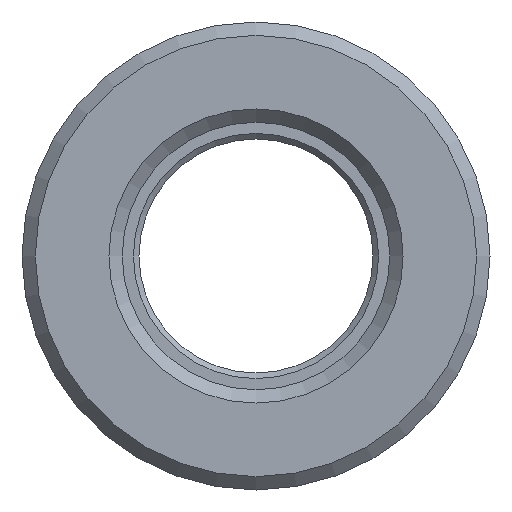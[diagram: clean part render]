
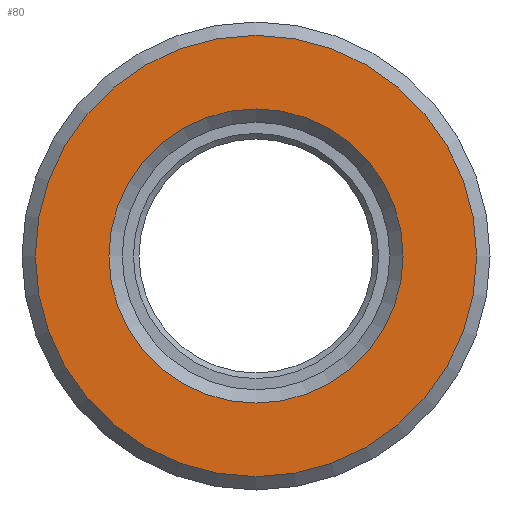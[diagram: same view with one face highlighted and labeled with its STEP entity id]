
A CAD part, front view. The second image highlights one B-rep face of the part: STEP entity #80.
In plain terms, the highlighted planar face has unit normal (0, -1, 0).
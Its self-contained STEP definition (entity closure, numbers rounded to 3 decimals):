
#80 = ADVANCED_FACE( '', ( #114, #115 ), #116, .T. );
#114 = FACE_OUTER_BOUND( '', #183, .T. );
#115 = FACE_BOUND( '', #184, .T. );
#116 = PLANE( '', #185 );
#183 = EDGE_LOOP( '', ( #262 ) );
#184 = EDGE_LOOP( '', ( #263 ) );
#185 = AXIS2_PLACEMENT_3D( '', #264, #265, #266 );
#262 = ORIENTED_EDGE( '', *, *, #358, .T. );
#263 = ORIENTED_EDGE( '', *, *, #357, .F. );
#264 = CARTESIAN_POINT( '', ( 6.6, 0., 0. ) );
#265 = DIRECTION( '', ( 0., -1., 0. ) );
#266 = DIRECTION( '', ( 0., 0., -1. ) );
#357 = EDGE_CURVE( '', #385, #385, #386, .T. );
#358 = EDGE_CURVE( '', #387, #387, #388, .T. );
#385 = VERTEX_POINT( '', #431 );
#386 = CIRCLE( '', #432, 6.6 );
#387 = VERTEX_POINT( '', #433 );
#388 = CIRCLE( '', #434, 9.9 );
#431 = CARTESIAN_POINT( '', ( 0., 0., -6.6 ) );
#432 = AXIS2_PLACEMENT_3D( '', #482, #483, #484 );
#433 = CARTESIAN_POINT( '', ( 0., 0., -9.9 ) );
#434 = AXIS2_PLACEMENT_3D( '', #485, #486, #487 );
#482 = CARTESIAN_POINT( '', ( 0., 0., 0. ) );
#483 = DIRECTION( '', ( 0., -1., 0. ) );
#484 = DIRECTION( '', ( 0., 0., -1. ) );
#485 = CARTESIAN_POINT( '', ( 0., 0., 0. ) );
#486 = DIRECTION( '', ( 0., -1., 0. ) );
#487 = DIRECTION( '', ( 0., 0., -1. ) );
